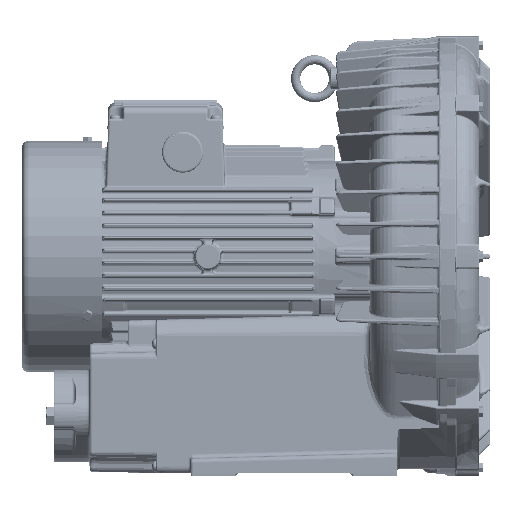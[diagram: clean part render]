
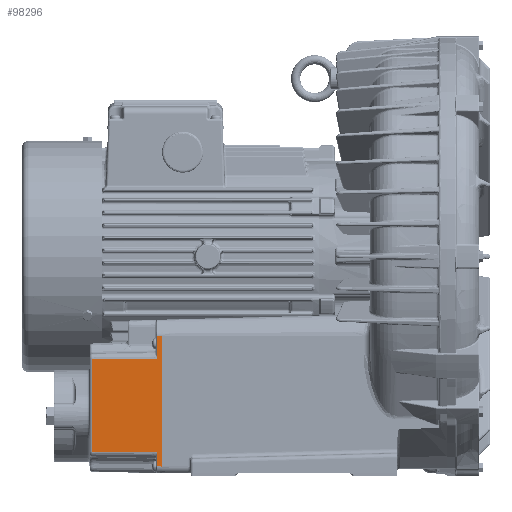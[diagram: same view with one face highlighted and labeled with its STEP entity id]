
A CAD part, left-side view. The second image highlights one B-rep face of the part: STEP entity #98296.
In plain terms, the highlighted planar face has unit normal (-1, 0.026, 0).
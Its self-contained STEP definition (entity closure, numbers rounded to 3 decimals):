
#9549=LINE('',#151049,#12524);
#9577=LINE('',#151910,#12552);
#9597=LINE('',#152000,#12572);
#9600=LINE('',#152189,#12575);
#9601=LINE('',#152191,#12576);
#9602=LINE('',#152193,#12577);
#9603=LINE('',#152195,#12578);
#9604=LINE('',#152196,#12579);
#12524=VECTOR('',#119097,57.046);
#12552=VECTOR('',#119303,57.046);
#12572=VECTOR('',#119419,81.);
#12575=VECTOR('',#119512,12.897);
#12576=VECTOR('',#119513,4.029);
#12577=VECTOR('',#119514,113.831);
#12578=VECTOR('',#119515,4.028);
#12579=VECTOR('',#119516,19.79);
#22395=PLANE('',#105726);
#24188=FACE_OUTER_BOUND('',#30658,.T.);
#30658=EDGE_LOOP('',(#71261,#71262,#71263,#71264,#71265,#71266,#71267,#71268));
#44200=VERTEX_POINT('',#150923);
#44208=VERTEX_POINT('',#151048);
#44264=VERTEX_POINT('',#151888);
#44266=VERTEX_POINT('',#151908);
#44281=VERTEX_POINT('',#152188);
#44282=VERTEX_POINT('',#152190);
#44283=VERTEX_POINT('',#152192);
#44284=VERTEX_POINT('',#152194);
#53731=EDGE_CURVE('',#44208,#44200,#9549,.T.);
#53838=EDGE_CURVE('',#44266,#44264,#9577,.T.);
#53885=EDGE_CURVE('',#44208,#44266,#9597,.T.);
#53913=EDGE_CURVE('',#44281,#44200,#9600,.T.);
#53914=EDGE_CURVE('',#44282,#44281,#9601,.T.);
#53915=EDGE_CURVE('',#44283,#44282,#9602,.T.);
#53916=EDGE_CURVE('',#44284,#44283,#9603,.T.);
#53917=EDGE_CURVE('',#44264,#44284,#9604,.T.);
#71261=ORIENTED_EDGE('',*,*,#53885,.F.);
#71262=ORIENTED_EDGE('',*,*,#53731,.T.);
#71263=ORIENTED_EDGE('',*,*,#53913,.F.);
#71264=ORIENTED_EDGE('',*,*,#53914,.F.);
#71265=ORIENTED_EDGE('',*,*,#53915,.F.);
#71266=ORIENTED_EDGE('',*,*,#53916,.F.);
#71267=ORIENTED_EDGE('',*,*,#53917,.F.);
#71268=ORIENTED_EDGE('',*,*,#53838,.F.);
#98296=ADVANCED_FACE('',(#24188),#22395,.T.);
#105726=AXIS2_PLACEMENT_3D('',#152187,#119510,#119511);
#119097=DIRECTION('',(-0.026,-1.,0.));
#119303=DIRECTION('',(-0.026,-1.,0.));
#119419=DIRECTION('',(0.,0.,1.));
#119510=DIRECTION('center_axis',(-1.,0.026,
0.));
#119511=DIRECTION('ref_axis',(0.,0.,1.));
#119512=DIRECTION('',(0.,0.,1.));
#119513=DIRECTION('',(0.026,0.999,0.026));
#119514=DIRECTION('',(0.,0.,-1.));
#119515=DIRECTION('',(-0.026,-1.,0.009));
#119516=DIRECTION('',(0.,0.,1.));
#150923=CARTESIAN_POINT('',(-124.895,255.026,-170.));
#151048=CARTESIAN_POINT('',(-123.401,312.052,-170.));
#151049=CARTESIAN_POINT('',(-125.,251.,-170.));
#151888=CARTESIAN_POINT('',(-124.895,255.026,-89.));
#151908=CARTESIAN_POINT('',(-123.401,312.052,-89.));
#151910=CARTESIAN_POINT('',(-125.,251.,-89.));
#152000=CARTESIAN_POINT('',(-123.401,312.052,-155.5));
#152187=CARTESIAN_POINT('Origin',(-125.,251.,-189.));
#152188=CARTESIAN_POINT('',(-124.895,255.026,-182.897));
#152189=CARTESIAN_POINT('',(-124.895,255.026,-185.615));
#152190=CARTESIAN_POINT('',(-125.,251.,-183.002));
#152191=CARTESIAN_POINT('',(-124.919,254.112,-182.921));
#152192=CARTESIAN_POINT('',(-125.,251.,-69.172));
#152193=CARTESIAN_POINT('',(-125.,251.,-155.439));
#152194=CARTESIAN_POINT('',(-124.895,255.026,-69.21));
#152195=CARTESIAN_POINT('',(-124.985,251.557,-69.177));
#152196=CARTESIAN_POINT('',(-124.895,255.026,-129.549));
